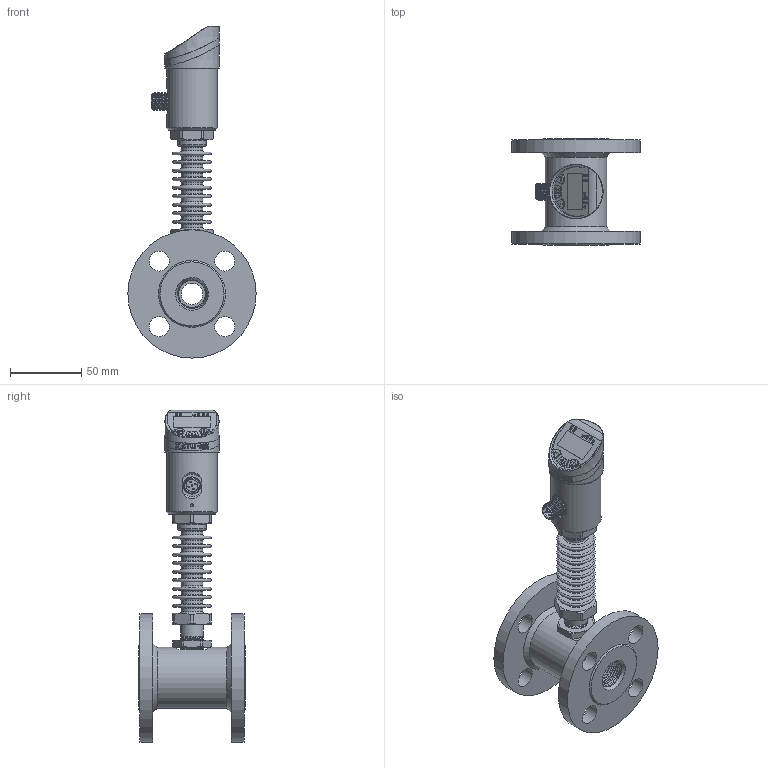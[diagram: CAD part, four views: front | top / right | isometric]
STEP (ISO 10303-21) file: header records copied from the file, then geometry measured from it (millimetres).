
FILE_DESCRIPTION( (''), '2;1');
FILE_NAME( 'QTKE_DN15_flange_high-temp.step', '2024-10-14T15:29:16+08:00', (''), (''), '', '', '');
FILE_SCHEMA (('AUTOMOTIVE_DESIGN { 1 0 10303 214 3 1 1 1 }'));
Length unit declared in the file: millimetre
Products named in the file (1): QTKE DN15_flange_high-temp
Bounding box: 90 x 75 x 233 mm (x, y, z)
Volume: 210361.6 mm3; surface area: 84622.8 mm2
Topology: 5 solids, 5 shells, 1010 faces, 2578 edges, 1675 vertices
Faces by surface type: plane 407, cylinder 182, extrusion 160, cone 117, bspline 63, torus 60, sphere 21
Full cylindrical faces by diameter (mm): 1.689 x1, 2 x1, 2.7 x6, 3.5 x5, 12 x1, 13 x1, 14 x8, 15 x11, 15.9 x1, 17 x1, 20 x1, 21 x2, 23 x3, 26 x5, 31.7 x1, 32 x1, 34 x1, 34.2 x1, 35.5 x2, 43 x1, 90 x2
Entity records: 47904 total; most frequent: CARTESIAN_POINT 20788, ORIENTED_EDGE 4730, DIRECTION 4158, EDGE_CURVE 2365, VERTEX_POINT 1611, AXIS2_PLACEMENT_3D 1498, EDGE_LOOP 1278, VECTOR 1162
